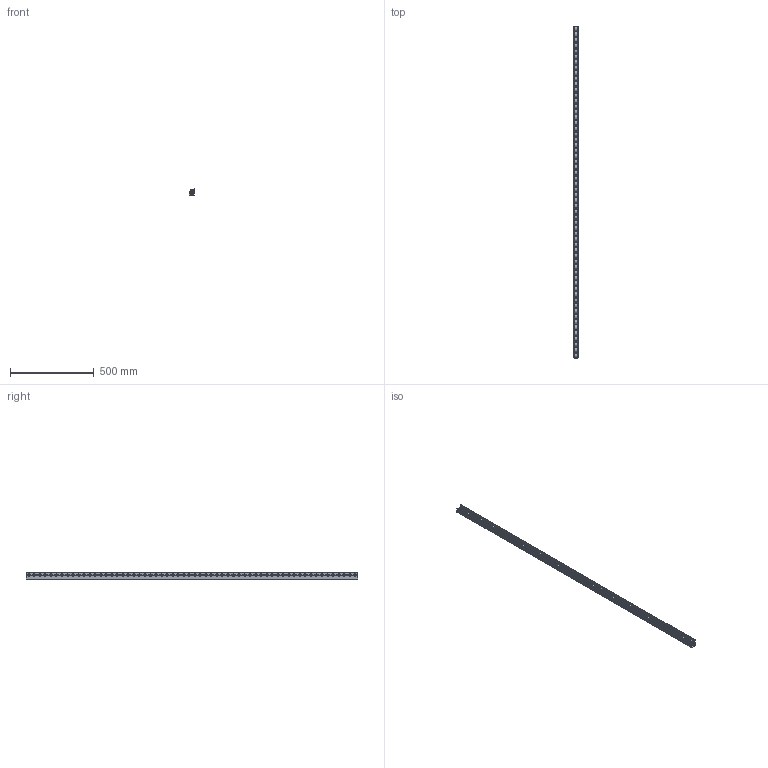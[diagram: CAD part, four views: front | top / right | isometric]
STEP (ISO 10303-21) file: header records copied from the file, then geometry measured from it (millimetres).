
FILE_DESCRIPTION(/* description */ ('Unknown'),/* implementation_level */ '2;1');
FILE_NAME(/* name */ 'Listwa T100L_33_2_symetryczny',/* time_stamp */ '2025-06-18T09:22:50+02:00',/* author */ ('Unknown'),/* organization */ ('Unknown'),/* preprocessor_version */ 'ST-DEVELOPER v20',/* originating_system */ 'Solid Edge',/* authorisation */ 'Unknown');
FILE_SCHEMA (('AUTOMOTIVE_DESIGN {1 0 10303 214 3 1 1}'));
Length unit declared in the file: millimetre
Products named in the file (4): Listwa T100L_33_2_symetryczny; Ceownik T100L_33_2_symetryczny; Rolka T 100; Nit2.
Assembly tree (121 placements, depth 2):
  Listwa T100L_33_2_symetryczny
    Ceownik T100L_33_2_symetryczny
    Rolka T 100  x60
    Nit2.  x60
Bounding box: 32 x 1980 x 44 mm (x, y, z)
Volume: 849544.3 mm3; surface area: 808641 mm2
Topology: 121 solids, 121 shells, 4245 faces, 11292 edges, 7529 vertices
Faces by surface type: plane 3370, cylinder 635, cone 120, torus 120
Full cylindrical faces by diameter (mm): 2 x60, 4.2 x31, 5 x60, 5.2 x120, 5.3 x60, 6 x120, 11.5 x120, 29 x60
Entity records: 8639 total; most frequent: DIRECTION 1560, CARTESIAN_POINT 1365, ORIENTED_EDGE 998, AXIS2_PLACEMENT_3D 730, EDGE_LOOP 704, FACE_BOUND 704, EDGE_CURVE 499, VERTEX_POINT 439
